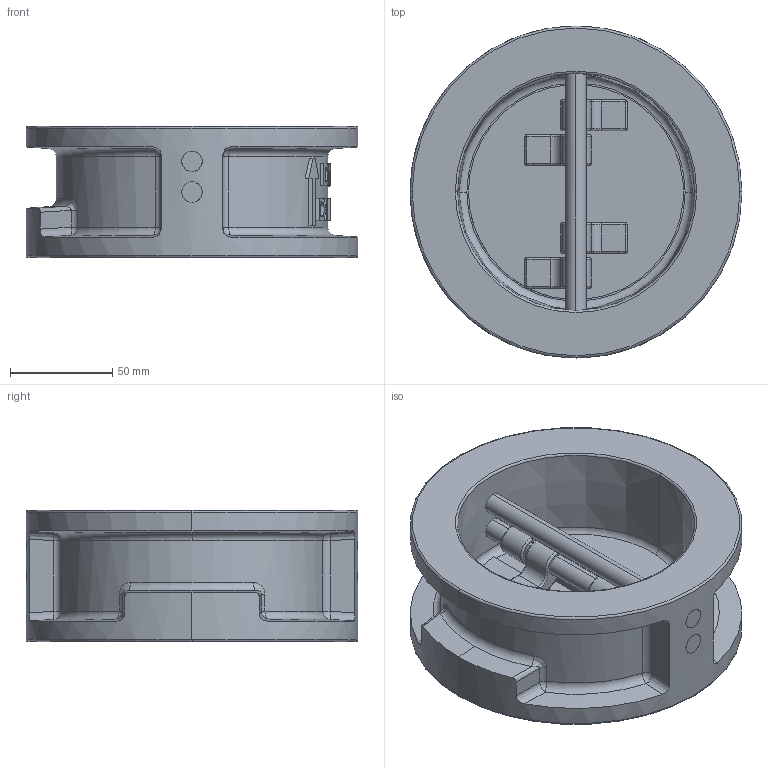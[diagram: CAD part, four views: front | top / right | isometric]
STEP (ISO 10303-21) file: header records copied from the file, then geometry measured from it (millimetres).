
FILE_DESCRIPTION (( 'STEP AP203' ), '1' );
FILE_NAME ('润泽DN100对夹双板止回阀PN16.STEP', '2026-08-19T02:44:03', ( 'Windows 用户' ), ( 'Microsoft' ), 'SwSTEP 2.0', 'SolidWorks 2022', '' );
FILE_SCHEMA (( 'CONFIG_CONTROL_DESIGN' ));
Length unit declared in the file: millimetre
Products named in the file (1): 润泽DN100对夹双板止回阀PN16
Bounding box: 162 x 162 x 64 mm (x, y, z)
Volume: 561733.1 mm3; surface area: 117855.9 mm2
Topology: 1 solids, 1 shells, 357 faces, 878 edges, 540 vertices
Faces by surface type: plane 100, cylinder 97, bspline 86, torus 43, sphere 18, cone 13
Entity records: 13665 total; most frequent: CARTESIAN_POINT 5732, ORIENTED_EDGE 1740, DIRECTION 1466, EDGE_CURVE 870, AXIS2_PLACEMENT_3D 566, VERTEX_POINT 540, EDGE_LOOP 394, ADVANCED_FACE 357
